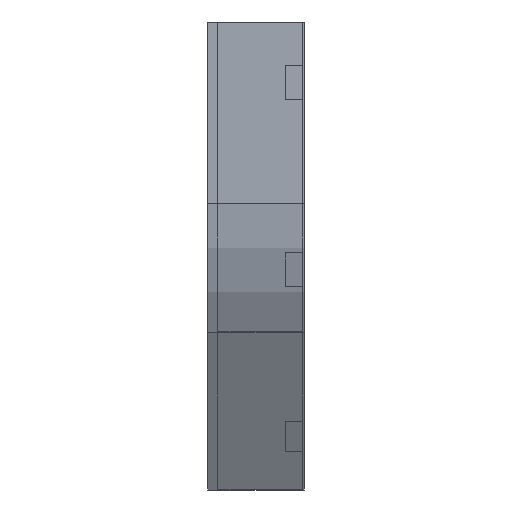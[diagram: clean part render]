
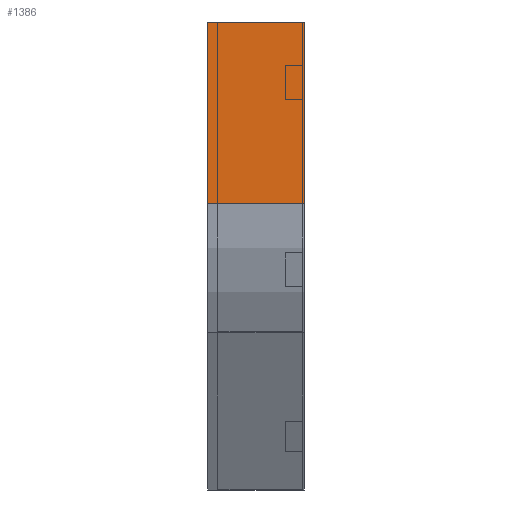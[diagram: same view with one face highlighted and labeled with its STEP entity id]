
A CAD part, left-side view. The second image highlights one B-rep face of the part: STEP entity #1386.
In plain terms, the highlighted planar face has unit normal (-1, 0, 0).
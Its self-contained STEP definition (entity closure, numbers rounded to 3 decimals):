
#54 = EDGE_LOOP ( 'NONE', ( #397, #1608, #1441, #1835 ) ) ;
#156 = FACE_OUTER_BOUND ( 'NONE', #54, .T. ) ;
#187 = VECTOR ( 'NONE', #668, 1000. ) ;
#208 = VERTEX_POINT ( 'NONE', #1611 ) ;
#234 = LINE ( 'NONE', #956, #699 ) ;
#287 = VERTEX_POINT ( 'NONE', #609 ) ;
#339 = DIRECTION ( 'NONE',  ( 0., -1., 0. ) ) ;
#340 = CARTESIAN_POINT ( 'NONE',  ( 0., 0., 0. ) ) ;
#397 = ORIENTED_EDGE ( 'NONE', *, *, #1786, .F. ) ;
#496 = CARTESIAN_POINT ( 'NONE',  ( 0., 112.5, 0. ) ) ;
#517 = VECTOR ( 'NONE', #339, 1000. ) ;
#609 = CARTESIAN_POINT ( 'NONE',  ( 0., 112.5, -210.77 ) ) ;
#668 = DIRECTION ( 'NONE',  ( 0., 0., -1. ) ) ;
#698 = LINE ( 'NONE', #1457, #517 ) ;
#699 = VECTOR ( 'NONE', #1537, 1000. ) ;
#795 = LINE ( 'NONE', #1242, #187 ) ;
#865 = PLANE ( 'NONE',  #1656 ) ;
#876 = DIRECTION ( 'NONE',  ( 0., 0., -1. ) ) ;
#896 = VERTEX_POINT ( 'NONE', #1208 ) ;
#926 = DIRECTION ( 'NONE',  ( 0., 0., -1. ) ) ;
#956 = CARTESIAN_POINT ( 'NONE',  ( 0., 0., 0. ) ) ;
#1162 = EDGE_CURVE ( 'NONE', #287, #208, #698, .T. ) ;
#1178 = DIRECTION ( 'NONE',  ( 1., 0., 0. ) ) ;
#1208 = CARTESIAN_POINT ( 'NONE',  ( 0., 112.5, 0. ) ) ;
#1242 = CARTESIAN_POINT ( 'NONE',  ( 0., 0., 0. ) ) ;
#1285 = EDGE_CURVE ( 'NONE', #896, #287, #1370, .T. ) ;
#1299 = CARTESIAN_POINT ( 'NONE',  ( 0., 0., 0. ) ) ;
#1320 = VERTEX_POINT ( 'NONE', #340 ) ;
#1370 = LINE ( 'NONE', #496, #1817 ) ;
#1386 = ADVANCED_FACE ( 'NONE', ( #156 ), #865, .F. ) ;
#1441 = ORIENTED_EDGE ( 'NONE', *, *, #1285, .T. ) ;
#1457 = CARTESIAN_POINT ( 'NONE',  ( 0., 0., -210.77 ) ) ;
#1484 = EDGE_CURVE ( 'NONE', #896, #1320, #234, .T. ) ;
#1537 = DIRECTION ( 'NONE',  ( 0., -1., 0. ) ) ;
#1608 = ORIENTED_EDGE ( 'NONE', *, *, #1484, .F. ) ;
#1611 = CARTESIAN_POINT ( 'NONE',  ( 0., 0., -210.77 ) ) ;
#1656 = AXIS2_PLACEMENT_3D ( 'NONE', #1299, #1178, #876 ) ;
#1786 = EDGE_CURVE ( 'NONE', #1320, #208, #795, .T. ) ;
#1817 = VECTOR ( 'NONE', #926, 1000. ) ;
#1835 = ORIENTED_EDGE ( 'NONE', *, *, #1162, .T. ) ;
